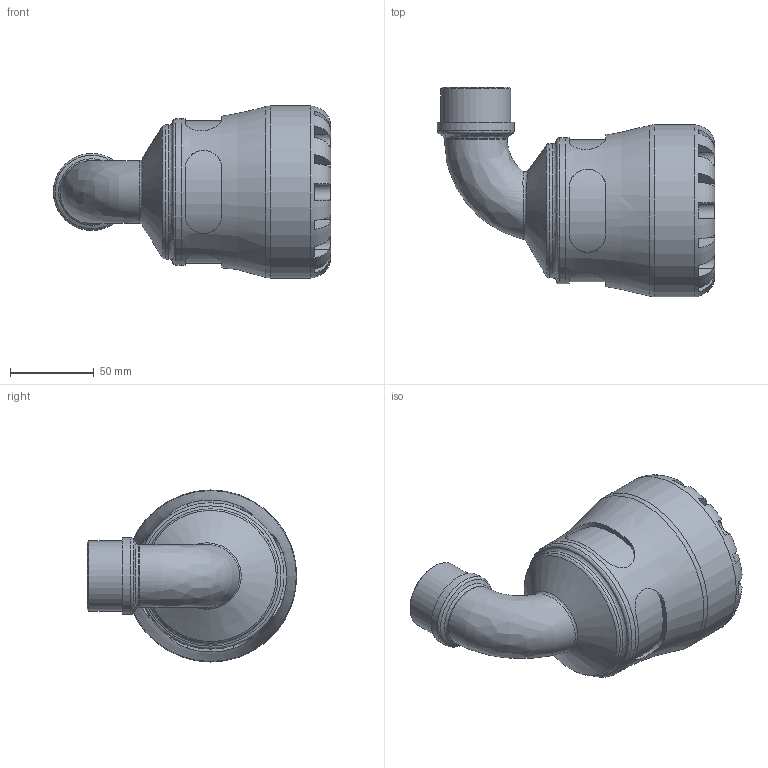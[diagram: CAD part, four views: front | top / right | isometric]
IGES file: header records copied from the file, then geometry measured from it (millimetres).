
Global section: file name: 107700063013_197700063013.ipt; native system: Autodesk Inventor 2015; preprocessor: unknown; author: KIM; date: 20180513.110422; units: millimetre
Bounding box: 166.05 x 125.5 x 103 mm (x, y, z)
Volume: 486159.7 mm3; surface area: 84572.2 mm2
Topology: 1 solids, 1 shells, 112 faces, 288 edges, 183 vertices
Faces by surface type: plane 60, revolution 28, cylinder 18, bspline 4, cone 2
Full cylindrical faces by diameter (mm): 37.719 x1, 41.91 x1, 46.101 x1, 80.34 x1, 87.55 x1, 103 x1
